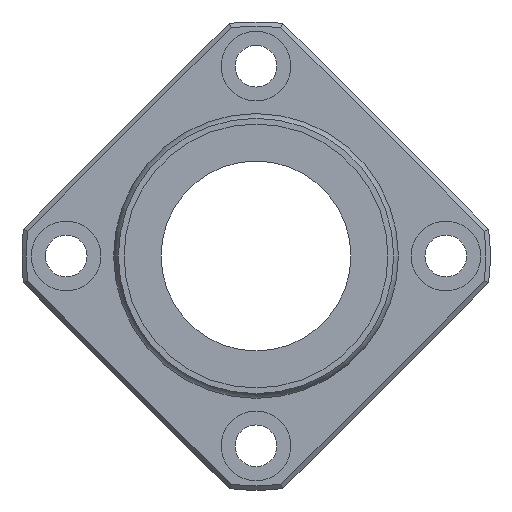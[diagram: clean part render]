
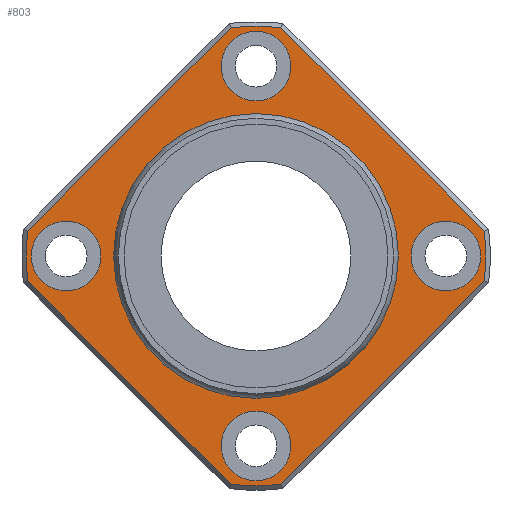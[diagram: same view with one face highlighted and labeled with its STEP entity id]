
A CAD part, left-side view. The second image highlights one B-rep face of the part: STEP entity #803.
In plain terms, the highlighted planar face has unit normal (-1, 0, 0).
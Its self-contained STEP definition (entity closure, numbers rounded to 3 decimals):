
#498=CARTESIAN_POINT('',(56.,-3.936,-36.086));
#499=VERTEX_POINT('',#498);
#507=CARTESIAN_POINT('',(56.,3.936,-36.086));
#508=VERTEX_POINT('',#507);
#509=CARTESIAN_POINT('',(56.,0.0,0.0));
#510=DIRECTION('',(1.0,0.0,0.0));
#511=DIRECTION('',(0.0,0.0,-1.0));
#512=AXIS2_PLACEMENT_3D('',#509,#510,#511);
#513=CIRCLE('',#512,36.3);
#514=EDGE_CURVE('',#499,#508,#513,.T.);
#540=CARTESIAN_POINT('',(56.,36.086,-3.936));
#541=VERTEX_POINT('',#540);
#542=CARTESIAN_POINT('',(56.,3.936,-36.086));
#543=DIRECTION('',(0.0,0.707,0.707));
#544=VECTOR('',#543,45.466);
#545=LINE('',#542,#544);
#546=EDGE_CURVE('',#508,#541,#545,.T.);
#573=CARTESIAN_POINT('',(56.,36.086,3.936));
#574=VERTEX_POINT('',#573);
#575=CARTESIAN_POINT('',(56.,0.0,0.0));
#576=DIRECTION('',(1.0,0.0,0.0));
#577=DIRECTION('',(0.0,0.0,1.0));
#578=AXIS2_PLACEMENT_3D('',#575,#576,#577);
#579=CIRCLE('',#578,36.3);
#580=EDGE_CURVE('',#541,#574,#579,.T.);
#604=CARTESIAN_POINT('',(56.,3.936,36.086));
#605=VERTEX_POINT('',#604);
#606=CARTESIAN_POINT('',(56.,36.086,3.936));
#607=DIRECTION('',(0.0,-0.707,0.707));
#608=VECTOR('',#607,45.466);
#609=LINE('',#606,#608);
#610=EDGE_CURVE('',#574,#605,#609,.T.);
#629=CARTESIAN_POINT('',(56.,-3.936,36.086));
#630=VERTEX_POINT('',#629);
#631=CARTESIAN_POINT('',(56.,0.0,0.0));
#632=DIRECTION('',(1.0,0.0,0.0));
#633=DIRECTION('',(0.0,0.0,1.0));
#634=AXIS2_PLACEMENT_3D('',#631,#632,#633);
#635=CIRCLE('',#634,36.3);
#636=EDGE_CURVE('',#605,#630,#635,.T.);
#655=CARTESIAN_POINT('',(56.,-36.086,3.936));
#656=VERTEX_POINT('',#655);
#657=CARTESIAN_POINT('',(56.,-3.936,36.086));
#658=DIRECTION('',(0.0,-0.707,-0.707));
#659=VECTOR('',#658,45.466);
#660=LINE('',#657,#659);
#661=EDGE_CURVE('',#630,#656,#660,.T.);
#680=CARTESIAN_POINT('',(56.,-36.086,-3.936));
#681=VERTEX_POINT('',#680);
#682=CARTESIAN_POINT('',(56.,0.0,0.0));
#683=DIRECTION('',(1.0,0.0,0.0));
#684=DIRECTION('',(0.0,0.0,1.0));
#685=AXIS2_PLACEMENT_3D('',#682,#683,#684);
#686=CIRCLE('',#685,36.3);
#687=EDGE_CURVE('',#656,#681,#686,.T.);
#706=CARTESIAN_POINT('',(56.,-36.086,-3.936));
#707=DIRECTION('',(0.0,0.707,-0.707));
#708=VECTOR('',#707,45.466);
#709=LINE('',#706,#708);
#710=EDGE_CURVE('',#681,#499,#709,.T.);
#733=CARTESIAN_POINT('',(56.,0.0,29.563));
#734=DIRECTION('',(-1.0,0.0,0.0));
#735=DIRECTION('',(0.0,0.0,1.0));
#736=AXIS2_PLACEMENT_3D('',#733,#734,#735);
#737=PLANE('',#736);
#738=ORIENTED_EDGE('',*,*,#514,.F.);
#739=ORIENTED_EDGE('',*,*,#710,.F.);
#740=ORIENTED_EDGE('',*,*,#687,.F.);
#741=ORIENTED_EDGE('',*,*,#661,.F.);
#742=ORIENTED_EDGE('',*,*,#636,.F.);
#743=ORIENTED_EDGE('',*,*,#610,.F.);
#744=ORIENTED_EDGE('',*,*,#580,.F.);
#745=ORIENTED_EDGE('',*,*,#546,.F.);
#746=EDGE_LOOP('',(#738,#739,#740,#741,#742,#743,#744,#745));
#747=FACE_OUTER_BOUND('',#746,.T.);
#748=CARTESIAN_POINT('',(56.,0.0,22.127));
#749=VERTEX_POINT('',#748);
#750=CARTESIAN_POINT('',(56.,0.0,0.0));
#751=DIRECTION('',(-1.0,0.0,0.0));
#752=DIRECTION('',(0.0,0.0,1.0));
#753=AXIS2_PLACEMENT_3D('',#750,#751,#752);
#754=CIRCLE('',#753,22.127);
#755=EDGE_CURVE('',#749,#749,#754,.T.);
#756=ORIENTED_EDGE('',*,*,#755,.F.);
#757=EDGE_LOOP('',(#756));
#758=FACE_BOUND('',#757,.T.);
#759=CARTESIAN_POINT('',(56.,-24.5,0.));
#760=VERTEX_POINT('',#759);
#761=CARTESIAN_POINT('',(56.,-30.0,0.));
#762=DIRECTION('',(1.0,0.0,0.0));
#763=DIRECTION('',(0.0,1.0,0.0));
#764=AXIS2_PLACEMENT_3D('',#761,#762,#763);
#765=CIRCLE('',#764,5.5);
#766=EDGE_CURVE('',#760,#760,#765,.T.);
#767=ORIENTED_EDGE('',*,*,#766,.T.);
#768=EDGE_LOOP('',(#767));
#769=FACE_BOUND('',#768,.T.);
#770=CARTESIAN_POINT('',(56.,35.5,0.));
#771=VERTEX_POINT('',#770);
#772=CARTESIAN_POINT('',(56.,30.0,0.));
#773=DIRECTION('',(1.0,0.0,0.0));
#774=DIRECTION('',(0.0,1.0,0.0));
#775=AXIS2_PLACEMENT_3D('',#772,#773,#774);
#776=CIRCLE('',#775,5.5);
#777=EDGE_CURVE('',#771,#771,#776,.T.);
#778=ORIENTED_EDGE('',*,*,#777,.T.);
#779=EDGE_LOOP('',(#778));
#780=FACE_BOUND('',#779,.T.);
#781=CARTESIAN_POINT('',(56.,5.5,30.0));
#782=VERTEX_POINT('',#781);
#783=CARTESIAN_POINT('',(56.,0.,30.0));
#784=DIRECTION('',(1.0,0.0,0.0));
#785=DIRECTION('',(0.0,1.0,0.0));
#786=AXIS2_PLACEMENT_3D('',#783,#784,#785);
#787=CIRCLE('',#786,5.5);
#788=EDGE_CURVE('',#782,#782,#787,.T.);
#789=ORIENTED_EDGE('',*,*,#788,.T.);
#790=EDGE_LOOP('',(#789));
#791=FACE_BOUND('',#790,.T.);
#792=CARTESIAN_POINT('',(56.,5.5,-30.0));
#793=VERTEX_POINT('',#792);
#794=CARTESIAN_POINT('',(56.,0.,-30.0));
#795=DIRECTION('',(1.0,0.0,0.0));
#796=DIRECTION('',(0.0,1.0,0.0));
#797=AXIS2_PLACEMENT_3D('',#794,#795,#796);
#798=CIRCLE('',#797,5.5);
#799=EDGE_CURVE('',#793,#793,#798,.T.);
#800=ORIENTED_EDGE('',*,*,#799,.T.);
#801=EDGE_LOOP('',(#800));
#802=FACE_BOUND('',#801,.T.);
#803=ADVANCED_FACE('',(#747,#758,#769,#780,#791,#802),#737,.T.);
